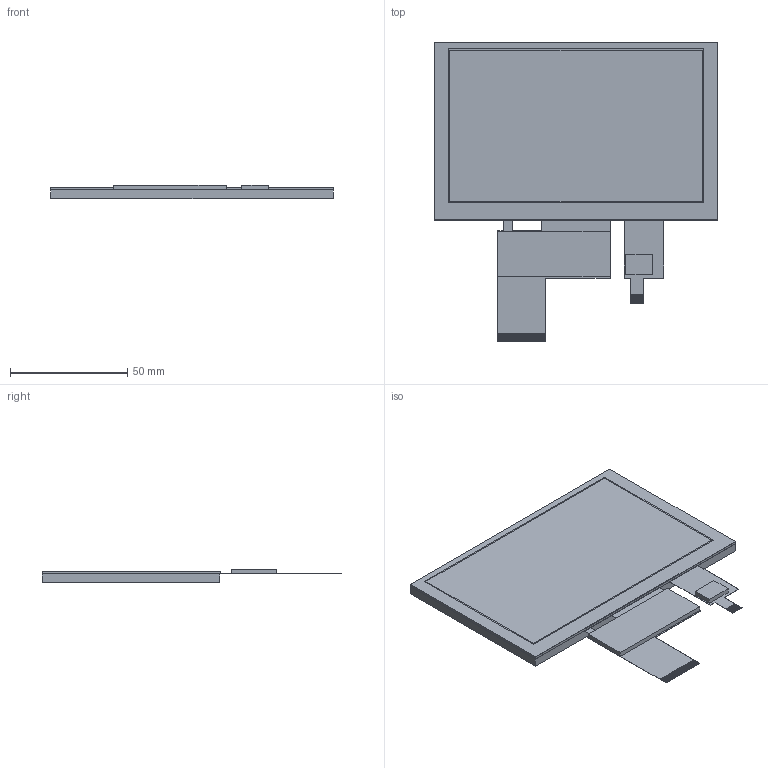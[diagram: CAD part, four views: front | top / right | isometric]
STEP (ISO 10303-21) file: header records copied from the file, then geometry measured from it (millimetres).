
FILE_DESCRIPTION (( 'STEP AP214' ), '1' );
FILE_NAME ('CFAF800480E1-050SC drawing.STEP', '2019-12-11T16:31:12', ( '' ), ( '' ), 'SwSTEP 2.0', 'SolidWorks 2015', '' );
FILE_SCHEMA (( 'AUTOMOTIVE_DESIGN' ));
Length unit declared in the file: millimetre
Products named in the file (1): CFAF800480E1-050SC drawing
Bounding box: 120.7 x 127.8 x 5.82 mm (x, y, z)
Volume: 47312.7 mm3; surface area: 45484.6 mm2
Topology: 56 solids, 56 shells, 351 faces, 719 edges, 482 vertices
Faces by surface type: plane 351
Entity records: 13394 total; most frequent: CARTESIAN_POINT 1553, ORIENTED_EDGE 1438, DIRECTION 1423, LINE 719, VECTOR 719, EDGE_CURVE 719, VERTEX_POINT 482, UNCERTAINTY_MEASURE_WITH_UNIT 406
